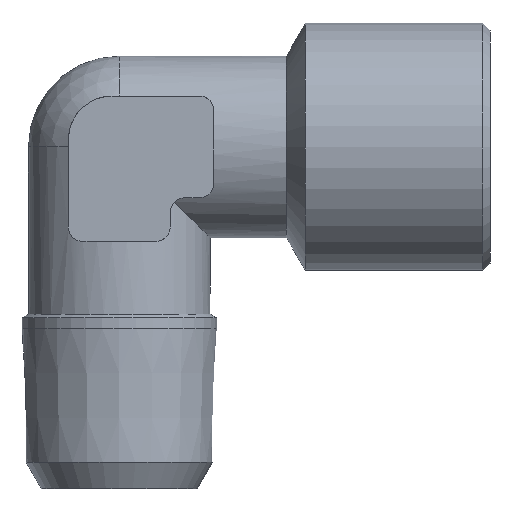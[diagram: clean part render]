
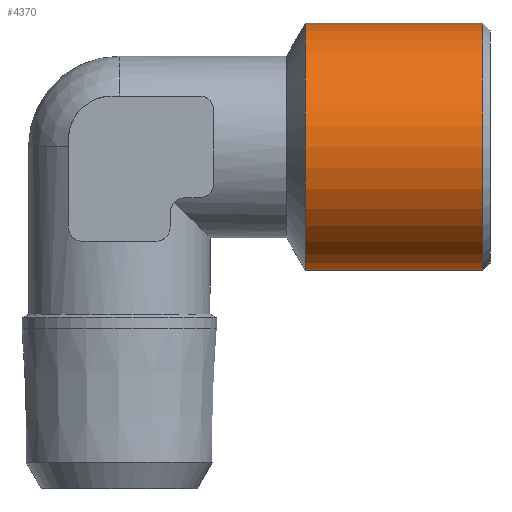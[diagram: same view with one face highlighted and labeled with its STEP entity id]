
A CAD part, front view. The second image highlights one B-rep face of the part: STEP entity #4370.
In plain terms, the highlighted cylindrical face has radius 8.5 mm (diameter 17 mm), a full revolution.
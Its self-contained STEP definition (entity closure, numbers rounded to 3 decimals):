
#1242=CYLINDRICAL_SURFACE('',#4258,8.5);
#1278=ORIENTED_EDGE('',*,*,#1616,.F.);
#1279=ORIENTED_EDGE('',*,*,#1615,.T.);
#1496=CIRCLE('',#4257,8.5);
#1497=CIRCLE('',#4259,8.5);
#1536=VERTEX_POINT('',#2108);
#1537=VERTEX_POINT('',#2111);
#1615=EDGE_CURVE('',#1536,#1536,#1496,.T.);
#1616=EDGE_CURVE('',#1537,#1537,#1497,.T.);
#1727=EDGE_LOOP('',(#1278));
#1728=EDGE_LOOP('',(#1279));
#1795=FACE_BOUND('',#1727,.T.);
#1796=FACE_BOUND('',#1728,.T.);
#1868=DIRECTION('',(-1.,0.,0.));
#1869=DIRECTION('',(0.,0.,8.5));
#1870=DIRECTION('',(-1.,0.,0.));
#1871=DIRECTION('',(0.,1.,0.));
#1872=DIRECTION('',(-1.,0.,0.));
#1873=DIRECTION('',(0.,0.,8.5));
#2108=CARTESIAN_POINT('',(38.637,32.832,8.5));
#2109=CARTESIAN_POINT('',(38.637,32.832,0.));
#2110=CARTESIAN_POINT('',(38.637,32.832,0.));
#2111=CARTESIAN_POINT('',(26.436,32.832,8.5));
#2112=CARTESIAN_POINT('',(26.436,32.832,0.));
#4257=AXIS2_PLACEMENT_3D('',#2109,#1868,#1869);
#4258=AXIS2_PLACEMENT_3D('',#2110,#1870,#1871);
#4259=AXIS2_PLACEMENT_3D('',#2112,#1872,#1873);
#4370=ADVANCED_FACE('',(#1795,#1796),#1242,.T.);
